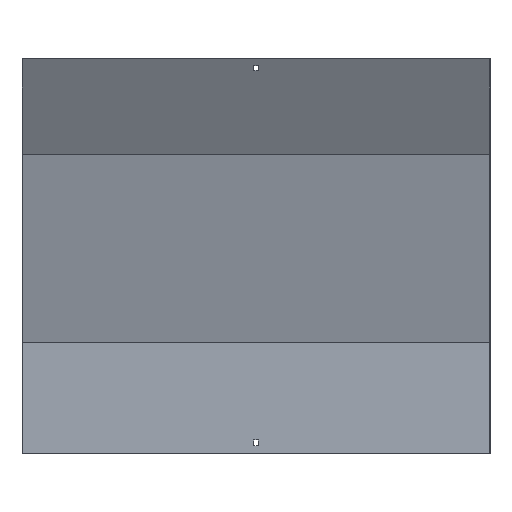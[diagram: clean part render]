
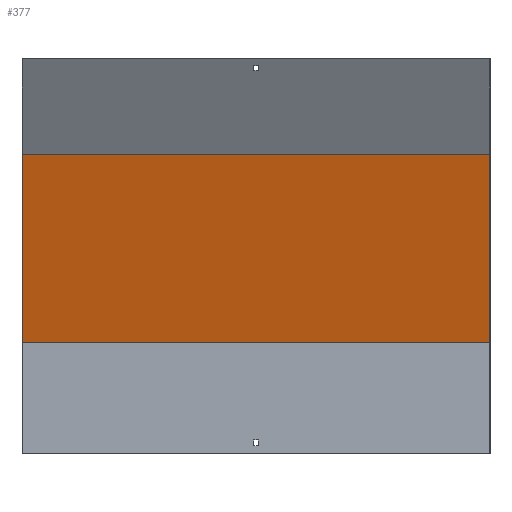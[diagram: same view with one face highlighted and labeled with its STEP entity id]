
A CAD part, front view. The second image highlights one B-rep face of the part: STEP entity #377.
In plain terms, the highlighted planar face has unit normal (0, -0.966, -0.259).
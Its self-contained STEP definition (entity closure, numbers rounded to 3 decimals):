
#45 = CARTESIAN_POINT ( 'NONE',  ( 351.5, 18.5, 166.436 ) ) ;
#48 = DIRECTION ( 'NONE',  ( 0., -0.259, 0.966 ) ) ;
#66 = VERTEX_POINT ( 'NONE', #356 ) ;
#109 = LINE ( 'NONE', #374, #413 ) ;
#112 = VERTEX_POINT ( 'NONE', #143 ) ;
#113 = LINE ( 'NONE', #308, #633 ) ;
#129 = DIRECTION ( 'NONE',  ( 0., -0.259, 0.966 ) ) ;
#143 = CARTESIAN_POINT ( 'NONE',  ( 350., 18.5, 166.436 ) ) ;
#195 = CARTESIAN_POINT ( 'NONE',  ( -350., 58.87, 15.774 ) ) ;
#276 = CARTESIAN_POINT ( 'NONE',  ( 350., -57.301, 449.327 ) ) ;
#303 = LINE ( 'NONE', #45, #722 ) ;
#308 = CARTESIAN_POINT ( 'NONE',  ( 351.5, -57.301, 449.327 ) ) ;
#324 = ORIENTED_EDGE ( 'NONE', *, *, #835, .F. ) ;
#331 = EDGE_LOOP ( 'NONE', ( #476, #324, #597, #529 ) ) ;
#355 = DIRECTION ( 'NONE',  ( 0., -0.966, -0.259 ) ) ;
#356 = CARTESIAN_POINT ( 'NONE',  ( -350., -57.301, 449.327 ) ) ;
#374 = CARTESIAN_POINT ( 'NONE',  ( 350., 58.87, 15.774 ) ) ;
#377 = ADVANCED_FACE ( 'NONE', ( #697 ), #401, .T. ) ;
#401 = PLANE ( 'NONE',  #436 ) ;
#413 = VECTOR ( 'NONE', #48, 1000. ) ;
#436 = AXIS2_PLACEMENT_3D ( 'NONE', #617, #355, #671 ) ;
#460 = VERTEX_POINT ( 'NONE', #682 ) ;
#461 = VERTEX_POINT ( 'NONE', #276 ) ;
#476 = ORIENTED_EDGE ( 'NONE', *, *, #655, .F. ) ;
#509 = DIRECTION ( 'NONE',  ( -1., 0., 0. ) ) ;
#529 = ORIENTED_EDGE ( 'NONE', *, *, #840, .T. ) ;
#577 = DIRECTION ( 'NONE',  ( -1., 0., 0. ) ) ;
#597 = ORIENTED_EDGE ( 'NONE', *, *, #833, .T. ) ;
#617 = CARTESIAN_POINT ( 'NONE',  ( 351.5, 17.87, 168.788 ) ) ;
#633 = VECTOR ( 'NONE', #577, 1000. ) ;
#655 = EDGE_CURVE ( 'NONE', #460, #66, #782, .T. ) ;
#671 = DIRECTION ( 'NONE',  ( 0., 0.259, -0.966 ) ) ;
#678 = VECTOR ( 'NONE', #129, 1000. ) ;
#682 = CARTESIAN_POINT ( 'NONE',  ( -350., 18.5, 166.436 ) ) ;
#697 = FACE_OUTER_BOUND ( 'NONE', #331, .T. ) ;
#722 = VECTOR ( 'NONE', #509, 1000. ) ;
#782 = LINE ( 'NONE', #195, #678 ) ;
#833 = EDGE_CURVE ( 'NONE', #112, #461, #109, .T. ) ;
#835 = EDGE_CURVE ( 'NONE', #112, #460, #303, .T. ) ;
#840 = EDGE_CURVE ( 'NONE', #461, #66, #113, .T. ) ;
